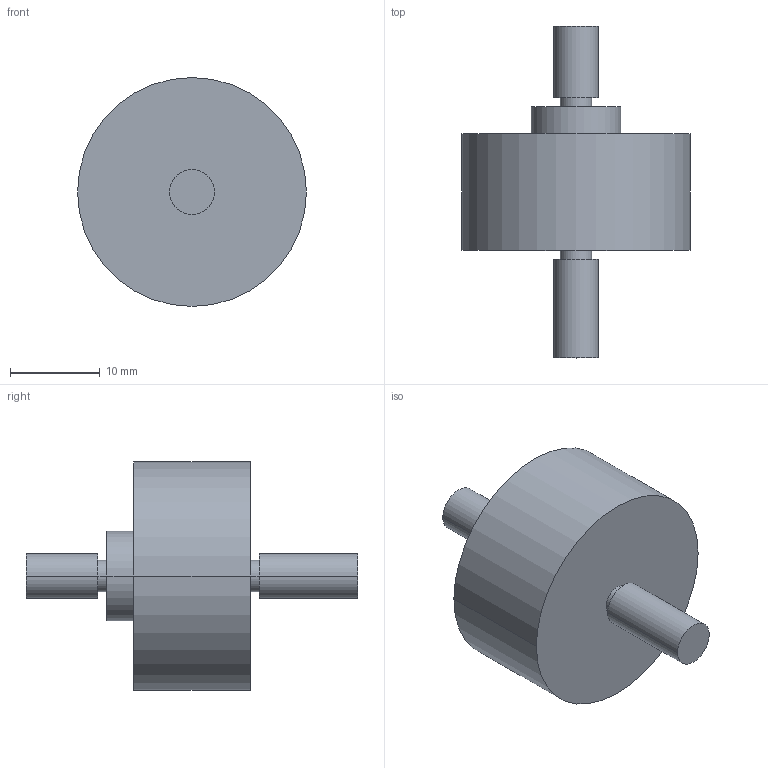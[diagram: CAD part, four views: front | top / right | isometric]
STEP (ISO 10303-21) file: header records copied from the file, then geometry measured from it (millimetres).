
FILE_DESCRIPTION (( 'STEP AP203' ), '1' );
FILE_NAME ('reb7-5kg.STEP', '2017-12-01T06:49:04', ( '' ), ( '' ), 'SwSTEP 2.0', 'SolidWorks 2016', '' );
FILE_SCHEMA (( 'CONFIG_CONTROL_DESIGN' ));
Length unit declared in the file: millimetre
Products named in the file (1): reb7-5kg
Bounding box: 25.5 x 37 x 25.5 mm (x, y, z)
Volume: 7267.1 mm3; surface area: 2517.6 mm2
Topology: 1 solids, 1 shells, 19 faces, 36 edges, 24 vertices
Faces by surface type: cylinder 12, plane 7
Entity records: 571 total; most frequent: DIRECTION 100, CARTESIAN_POINT 80, ORIENTED_EDGE 72, AXIS2_PLACEMENT_3D 44, EDGE_CURVE 36, VERTEX_POINT 24, EDGE_LOOP 24, CIRCLE 24
